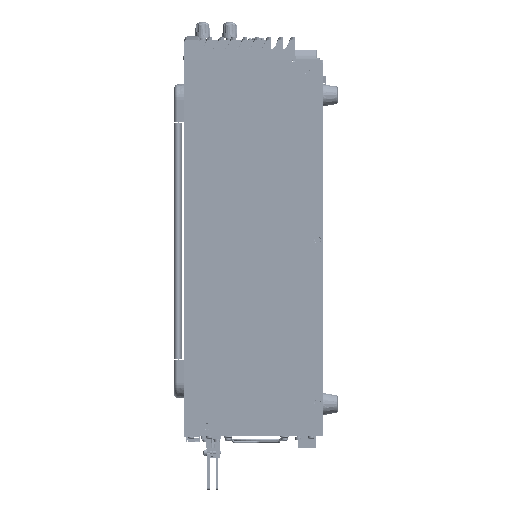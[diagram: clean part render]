
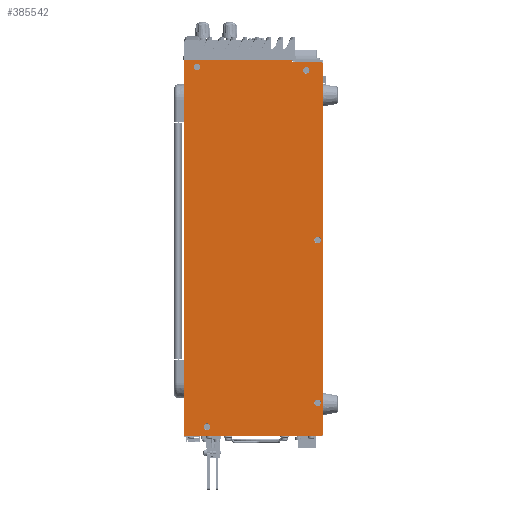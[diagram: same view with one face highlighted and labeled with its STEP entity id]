
A CAD part, left-side view. The second image highlights one B-rep face of the part: STEP entity #385542.
In plain terms, the highlighted planar face has unit normal (-1, 0, 0).
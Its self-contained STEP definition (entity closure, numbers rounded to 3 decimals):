
#383477=CARTESIAN_POINT('',(-177.2,2.5,-330.5));
#383478=DIRECTION('',(1.,0.,0.));
#383479=DIRECTION('',(0.,-1.,0.));
#383480=AXIS2_PLACEMENT_3D('',#383477,#383478,#383479);
#383482=DIRECTION('',(0.,-1.,0.));
#383483=VECTOR('',#383482,95.4);
#383484=CARTESIAN_POINT('',(-177.2,123.,0.));
#383485=LINE('',#383484,#383483);
#383486=DIRECTION('',(0.,0.,-1.));
#383487=VECTOR('',#383486,1.3);
#383488=CARTESIAN_POINT('',(-177.2,27.6,0.));
#383489=LINE('',#383488,#383487);
#383490=CARTESIAN_POINT('',(-177.2,2.5,-3.3));
#383491=DIRECTION('',(1.,0.,0.));
#383492=DIRECTION('',(0.,0.,1.));
#383493=AXIS2_PLACEMENT_3D('',#383490,#383491,#383492);
#383495=DIRECTION('',(0.,0.,-1.));
#383496=VECTOR('',#383495,327.2);
#383497=CARTESIAN_POINT('',(-177.2,0.5,-3.3));
#383498=LINE('',#383497,#383496);
#383499=CARTESIAN_POINT('',(-177.2,5.2,-303.));
#383500=DIRECTION('',(-1.,0.,0.));
#383501=DIRECTION('',(0.,1.,0.));
#383502=AXIS2_PLACEMENT_3D('',#383499,#383500,#383501);
#383504=CARTESIAN_POINT('',(-177.2,5.2,-303.));
#383505=DIRECTION('',(-1.,0.,0.));
#383506=DIRECTION('',(0.,-1.,0.));
#383507=AXIS2_PLACEMENT_3D('',#383504,#383505,#383506);
#383509=CARTESIAN_POINT('',(-177.2,5.2,-159.));
#383510=DIRECTION('',(-1.,0.,0.));
#383511=DIRECTION('',(0.,1.,0.));
#383512=AXIS2_PLACEMENT_3D('',#383509,#383510,#383511);
#383514=CARTESIAN_POINT('',(-177.2,5.2,-159.));
#383515=DIRECTION('',(-1.,0.,0.));
#383516=DIRECTION('',(0.,-1.,0.));
#383517=AXIS2_PLACEMENT_3D('',#383514,#383515,#383516);
#383519=CARTESIAN_POINT('',(-177.2,15.2,-9.));
#383520=DIRECTION('',(-1.,0.,0.));
#383521=DIRECTION('',(0.,1.,0.));
#383522=AXIS2_PLACEMENT_3D('',#383519,#383520,#383521);
#383524=CARTESIAN_POINT('',(-177.2,15.2,-9.));
#383525=DIRECTION('',(-1.,0.,0.));
#383526=DIRECTION('',(0.,-1.,0.));
#383527=AXIS2_PLACEMENT_3D('',#383524,#383525,#383526);
#383529=CARTESIAN_POINT('',(-177.2,103.,-324.));
#383530=DIRECTION('',(-1.,0.,0.));
#383531=DIRECTION('',(0.,1.,0.));
#383532=AXIS2_PLACEMENT_3D('',#383529,#383530,#383531);
#383534=CARTESIAN_POINT('',(-177.2,103.,-324.));
#383535=DIRECTION('',(-1.,0.,0.));
#383536=DIRECTION('',(0.,-1.,0.));
#383537=AXIS2_PLACEMENT_3D('',#383534,#383535,#383536);
#383539=CARTESIAN_POINT('',(-177.2,112.,-6.));
#383540=DIRECTION('',(-1.,0.,0.));
#383541=DIRECTION('',(0.,1.,0.));
#383542=AXIS2_PLACEMENT_3D('',#383539,#383540,#383541);
#383544=CARTESIAN_POINT('',(-177.2,112.,-6.));
#383545=DIRECTION('',(-1.,0.,0.));
#383546=DIRECTION('',(0.,-1.,0.));
#383547=AXIS2_PLACEMENT_3D('',#383544,#383545,#383546);
#383569=DIRECTION('',(0.,1.,0.));
#383570=VECTOR('',#383569,25.1);
#383571=CARTESIAN_POINT('',(-177.2,2.5,-1.3));
#383572=LINE('',#383571,#383570);
#383602=DIRECTION('',(0.,0.,-1.));
#383603=VECTOR('',#383602,332.5);
#383604=CARTESIAN_POINT('',(-177.2,123.,0.));
#383605=LINE('',#383604,#383603);
#384905=DIRECTION('',(0.,-1.,0.));
#384906=VECTOR('',#384905,120.5);
#384907=CARTESIAN_POINT('',(-177.2,123.,-332.5));
#384908=LINE('',#384907,#384906);
#385045=CARTESIAN_POINT('',(-177.2,0.5,-330.5));
#385046=CARTESIAN_POINT('',(-177.2,2.5,-332.5));
#385047=VERTEX_POINT('',#385045);
#385048=VERTEX_POINT('',#385046);
#385049=CARTESIAN_POINT('',(-177.2,123.,-332.5));
#385050=VERTEX_POINT('',#385049);
#385051=CARTESIAN_POINT('',(-177.2,123.,0.));
#385052=VERTEX_POINT('',#385051);
#385053=CARTESIAN_POINT('',(-177.2,27.6,0.));
#385054=VERTEX_POINT('',#385053);
#385055=CARTESIAN_POINT('',(-177.2,27.6,-1.3));
#385056=VERTEX_POINT('',#385055);
#385057=CARTESIAN_POINT('',(-177.2,2.5,-1.3));
#385058=VERTEX_POINT('',#385057);
#385059=CARTESIAN_POINT('',(-177.2,0.5,-3.3));
#385060=VERTEX_POINT('',#385059);
#385061=CARTESIAN_POINT('',(-177.2,8.093,-303.));
#385062=CARTESIAN_POINT('',(-177.2,2.307,-303.));
#385063=VERTEX_POINT('',#385061);
#385064=VERTEX_POINT('',#385062);
#385065=CARTESIAN_POINT('',(-177.2,8.093,-159.));
#385066=CARTESIAN_POINT('',(-177.2,2.307,-159.));
#385067=VERTEX_POINT('',#385065);
#385068=VERTEX_POINT('',#385066);
#385069=CARTESIAN_POINT('',(-177.2,18.093,-9.));
#385070=CARTESIAN_POINT('',(-177.2,12.307,-9.));
#385071=VERTEX_POINT('',#385069);
#385072=VERTEX_POINT('',#385070);
#385073=CARTESIAN_POINT('',(-177.2,105.893,-324.));
#385074=CARTESIAN_POINT('',(-177.2,100.107,-324.));
#385075=VERTEX_POINT('',#385073);
#385076=VERTEX_POINT('',#385074);
#385077=CARTESIAN_POINT('',(-177.2,114.893,-6.));
#385078=CARTESIAN_POINT('',(-177.2,109.107,-6.));
#385079=VERTEX_POINT('',#385077);
#385080=VERTEX_POINT('',#385078);
#385489=CARTESIAN_POINT('',(-177.2,123.,0.));
#385490=DIRECTION('',(-1.,0.,0.));
#385491=DIRECTION('',(0.,-1.,0.));
#385492=AXIS2_PLACEMENT_3D('',#385489,#385490,#385491);
#385493=PLANE('',#385492);
#385495=ORIENTED_EDGE('',*,*,#385494,.T.);
#385497=ORIENTED_EDGE('',*,*,#385496,.F.);
#385499=ORIENTED_EDGE('',*,*,#385498,.F.);
#385501=ORIENTED_EDGE('',*,*,#385500,.T.);
#385503=ORIENTED_EDGE('',*,*,#385502,.T.);
#385505=ORIENTED_EDGE('',*,*,#385504,.F.);
#385507=ORIENTED_EDGE('',*,*,#385506,.T.);
#385509=ORIENTED_EDGE('',*,*,#385508,.T.);
#385510=EDGE_LOOP('',(#385495,#385497,#385499,#385501,#385503,#385505,#385507,
#385509));
#385511=FACE_OUTER_BOUND('',#385510,.F.);
#385513=ORIENTED_EDGE('',*,*,#385512,.T.);
#385515=ORIENTED_EDGE('',*,*,#385514,.T.);
#385516=EDGE_LOOP('',(#385513,#385515));
#385517=FACE_BOUND('',#385516,.F.);
#385519=ORIENTED_EDGE('',*,*,#385518,.T.);
#385521=ORIENTED_EDGE('',*,*,#385520,.T.);
#385522=EDGE_LOOP('',(#385519,#385521));
#385523=FACE_BOUND('',#385522,.F.);
#385525=ORIENTED_EDGE('',*,*,#385524,.T.);
#385527=ORIENTED_EDGE('',*,*,#385526,.T.);
#385528=EDGE_LOOP('',(#385525,#385527));
#385529=FACE_BOUND('',#385528,.F.);
#385531=ORIENTED_EDGE('',*,*,#385530,.T.);
#385533=ORIENTED_EDGE('',*,*,#385532,.T.);
#385534=EDGE_LOOP('',(#385531,#385533));
#385535=FACE_BOUND('',#385534,.F.);
#385537=ORIENTED_EDGE('',*,*,#385536,.T.);
#385539=ORIENTED_EDGE('',*,*,#385538,.T.);
#385540=EDGE_LOOP('',(#385537,#385539));
#385541=FACE_BOUND('',#385540,.F.);
#385542=ADVANCED_FACE('',(#385511,#385517,#385523,#385529,#385535,#385541),
#385493,.T.);
#383481=CIRCLE('',#383480,2.);
#383494=CIRCLE('',#383493,2.);
#383503=CIRCLE('',#383502,2.893);
#383508=CIRCLE('',#383507,2.893);
#383513=CIRCLE('',#383512,2.893);
#383518=CIRCLE('',#383517,2.893);
#383523=CIRCLE('',#383522,2.893);
#383528=CIRCLE('',#383527,2.893);
#383533=CIRCLE('',#383532,2.893);
#383538=CIRCLE('',#383537,2.893);
#383543=CIRCLE('',#383542,2.893);
#383548=CIRCLE('',#383547,2.893);
#385494=EDGE_CURVE('',#385047,#385048,#383481,.T.);
#385496=EDGE_CURVE('',#385050,#385048,#384908,.T.);
#385498=EDGE_CURVE('',#385052,#385050,#383605,.T.);
#385500=EDGE_CURVE('',#385052,#385054,#383485,.T.);
#385502=EDGE_CURVE('',#385054,#385056,#383489,.T.);
#385504=EDGE_CURVE('',#385058,#385056,#383572,.T.);
#385506=EDGE_CURVE('',#385058,#385060,#383494,.T.);
#385508=EDGE_CURVE('',#385060,#385047,#383498,.T.);
#385512=EDGE_CURVE('',#385063,#385064,#383503,.T.);
#385514=EDGE_CURVE('',#385064,#385063,#383508,.T.);
#385518=EDGE_CURVE('',#385067,#385068,#383513,.T.);
#385520=EDGE_CURVE('',#385068,#385067,#383518,.T.);
#385524=EDGE_CURVE('',#385071,#385072,#383523,.T.);
#385526=EDGE_CURVE('',#385072,#385071,#383528,.T.);
#385530=EDGE_CURVE('',#385075,#385076,#383533,.T.);
#385532=EDGE_CURVE('',#385076,#385075,#383538,.T.);
#385536=EDGE_CURVE('',#385079,#385080,#383543,.T.);
#385538=EDGE_CURVE('',#385080,#385079,#383548,.T.);
